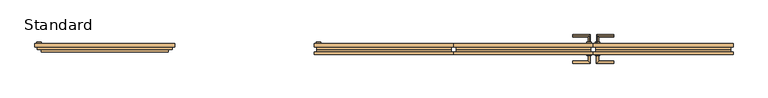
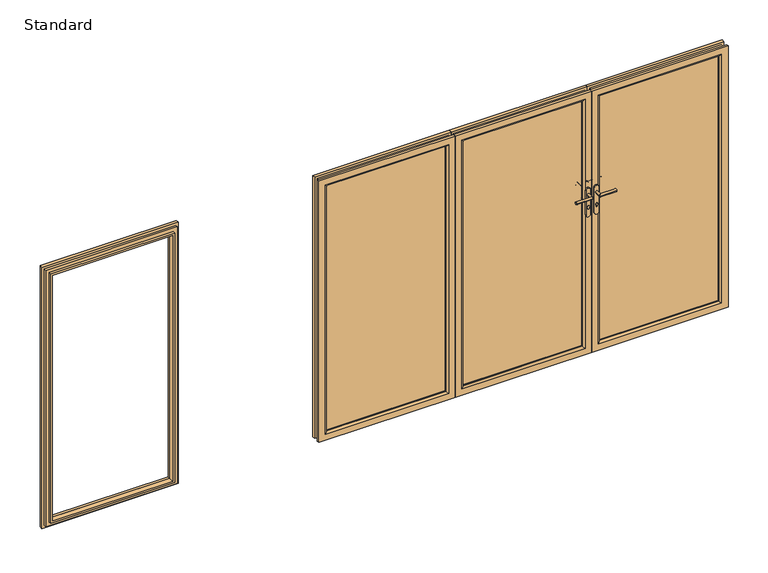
"""IFC4 building model written with IfcOpenShell, lengths in millimetres: door geometry, SMARTS_Visofold1000 : Standard."""

from ifc_helpers import new_model, si_unit, point, frame, frame_2d, origin, place, context, project, spatial, polyline, circle_curve, ellipse_curve, trimmed, segment, composite_curve, outline, extrude, faceted_brep, source, transform, mapped, element, save
from ifc_brep_helpers import plane_surface, cylinder_surface, advanced_brep


def standard_d1462c20(model_context):
    return source(origin(), model_context, "Body", "SolidModel", [
        advanced_brep(
        [(2003.3333333, 75.0, 1232.5996413), (2003.3333333, 75.0, 1215.5996413), (2003.3333333, 130.0, 1215.5996413), (2003.3333333, 130.0, 1232.5996413), (2118.3333333, 130.0, 1232.5996413), (2118.3333333, 130.0, 1215.5996413)],
        [
            (0, 1, circle_curve(frame((2003.3333333, 75.0, 1224.0996413), z_axis=(0.0, -1.0, 0.0), x_axis=(0.0, 0.0, -1.0)), 8.5)),
            (1, 0, circle_curve(frame((2003.3333333, 75.0, 1224.0996413), z_axis=(0.0, -1.0, 0.0), x_axis=(0.0, 0.0, -1.0)), 8.5)),
            (1, 2),
            (2, 3, ellipse_curve(frame((2003.3333333, 130.0, 1224.0996413), z_axis=(-0.7071067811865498, -0.7071067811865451, 0.0), x_axis=(0.707106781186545, -0.70710678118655, 0.0)), 12.0208153, 8.5)),
            (3, 0),
            (3, 2, ellipse_curve(frame((2003.3333333, 130.0, 1224.0996413), z_axis=(-0.7071067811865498, -0.7071067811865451, 0.0), x_axis=(0.707106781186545, -0.70710678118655, 0.0)), 12.0208153, 8.5)),
            (4, 5, circle_curve(frame((2118.3333333, 130.0, 1224.0996413), z_axis=(1.0, 0.0, 0.0), x_axis=(0.0, 0.0, -1.0)), 8.5)),
            (5, 4, circle_curve(frame((2118.3333333, 130.0, 1224.0996413), z_axis=(1.0, 0.0, 0.0), x_axis=(0.0, 0.0, -1.0)), 8.5)),
            (2, 5),
            (4, 3),
        ],
        [
            plane_surface(frame((2003.3333333, 75.0, 1224.0996413), z_axis=(0.0, -1.0, 0.0), x_axis=(0.0, 0.0, -1.0))),
            cylinder_surface(frame((2003.3333333, 75.0, 1224.0996413), z_axis=(0.0, -1.0, 0.0), x_axis=(0.0, 0.0, -1.0)), 8.5),
            plane_surface(frame((2118.3333333, 130.0, 1224.0996413), z_axis=(1.0, 0.0, 0.0), x_axis=(0.0, 0.0, -1.0))),
            cylinder_surface(frame((2003.3333333, 130.0, 1224.0996413), z_axis=(-1.0, 0.0, 0.0), x_axis=(0.0, 0.0, -1.0)), 8.5),
        ],
        [
            (0, [[1, 2]]),
            (1, [[-2, 3, 4, 5]]),
            (1, [[-1, -5, 6, -3]]),
            (2, [[7, 8]]),
            (3, [[-4, 9, -7, 10]]),
            (3, [[-6, -10, -8, -9]]),
        ],
    ),
        extrude(outline(composite_curve([segment(trimmed(circle_curve(frame_2d((1258.0996413, 2003.3333333)), 16.0), [point((1258.0996413, 2019.3333333))], [point((1258.0996413, 1987.3333333))], False, "CARTESIAN"), True, "CONTINUOUS"), segment(polyline([(1258.0996413, 1987.3333333), (1070.0996413, 1987.3333333)]), True, "CONTINUOUS"), segment(trimmed(circle_curve(frame_2d((1070.0996413, 2003.3333333)), 16.0), [point((1070.0996413, 1987.3333333))], [point((1070.0996413, 2019.3333333))], False, "CARTESIAN"), True, "CONTINUOUS"), segment(polyline([(1070.0996413, 2019.3333333), (1258.0996413, 2019.3333333)]), True, "CONTINUOUS")], self_intersect=False)), frame((0.0, 75.0, 0.0), z_axis=(0.0, 1.0, 0.0), x_axis=(0.0, 0.0, 1.0)), (0.0, 0.0, 1.0), 10.0),
        advanced_brep(
        [(2011.8333333, 0.0, 1224.0996413), (1994.8333333, 0.0, 1224.0996413), (2011.8333333, -46.5, 1224.0996413), (1994.8333333, -63.5, 1224.0996413), (2118.3333333, -46.5, 1224.0996413), (2118.3333333, -63.5, 1224.0996413)],
        [
            (0, 1, circle_curve(frame((2003.3333333, 0.0, 1224.0996413), z_axis=(0.0, 1.0, 0.0), x_axis=(-1.0, 0.0, 0.0)), 8.5)),
            (1, 0, circle_curve(frame((2003.3333333, 0.0, 1224.0996413), z_axis=(0.0, 1.0, 0.0), x_axis=(-1.0, 0.0, 0.0)), 8.5)),
            (0, 2),
            (2, 3, ellipse_curve(frame((2003.3333333, -55.0, 1224.0996413), z_axis=(-0.7071067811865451, 0.7071067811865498, 0.0), x_axis=(0.7071067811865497, 0.7071067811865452, 0.0)), 12.0208153, 8.5)),
            (3, 1),
            (3, 2, ellipse_curve(frame((2003.3333333, -55.0, 1224.0996413), z_axis=(-0.7071067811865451, 0.7071067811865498, 0.0), x_axis=(0.7071067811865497, 0.7071067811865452, 0.0)), 12.0208153, 8.5)),
            (4, 5, circle_curve(frame((2118.3333333, -55.0, 1224.0996413), z_axis=(1.0, 0.0, 0.0), x_axis=(0.0, -1.0, 0.0)), 8.5)),
            (5, 4, circle_curve(frame((2118.3333333, -55.0, 1224.0996413), z_axis=(1.0, 0.0, 0.0), x_axis=(0.0, -1.0, 0.0)), 8.5)),
            (2, 4),
            (5, 3),
        ],
        [
            plane_surface(frame((2003.3333333, 0.0, 1224.0996413), z_axis=(0.0, 1.0, 0.0), x_axis=(0.0, 0.0, -1.0))),
            cylinder_surface(frame((2003.3333333, 0.0, 1224.0996413), z_axis=(0.0, 1.0, 0.0), x_axis=(-1.0, 0.0, 0.0)), 8.5),
            plane_surface(frame((2118.3333333, -55.0, 1224.0996413), z_axis=(1.0, 0.0, 0.0), x_axis=(0.0, 0.0, -1.0))),
            cylinder_surface(frame((2003.3333333, -55.0, 1224.0996413), z_axis=(-1.0, 0.0, 0.0), x_axis=(0.0, -1.0, 0.0)), 8.5),
        ],
        [
            (0, [[1, 2]]),
            (1, [[-1, 3, 4, 5]]),
            (1, [[-2, -5, 6, -3]]),
            (2, [[7, 8]]),
            (3, [[-4, 9, -8, 10]]),
            (3, [[-6, -10, -7, -9]]),
        ],
    ),
        extrude(outline(composite_curve([segment(trimmed(circle_curve(frame_2d((1258.0996413, 2003.3333333)), 16.0), [point((1258.0996413, 2019.3333333))], [point((1258.0996413, 1987.3333333))], False, "CARTESIAN"), True, "CONTINUOUS"), segment(polyline([(1258.0996413, 1987.3333333), (1070.0996413, 1987.3333333)]), True, "CONTINUOUS"), segment(trimmed(circle_curve(frame_2d((1070.0996413, 2003.3333333)), 16.0), [point((1070.0996413, 1987.3333333))], [point((1070.0996413, 2019.3333333))], False, "CARTESIAN"), True, "CONTINUOUS"), segment(polyline([(1070.0996413, 2019.3333333), (1258.0996413, 2019.3333333)]), True, "CONTINUOUS")], self_intersect=False)), frame((0.0, -10.0, 0.0), z_axis=(0.0, 1.0, 0.0), x_axis=(0.0, 0.0, 1.0)), (0.0, 0.0, 1.0), 10.0),
        extrude(outline(composite_curve([segment(trimmed(circle_curve(frame_2d((1132.0996413, 2003.3905239)), 8.5), [point((1125.1769586, 2008.3227104))], [point((1125.27562, 1998.3227104))], False, "CARTESIAN"), True, "CONTINUOUS"), segment(polyline([(1125.27562, 1998.3227104), (1117.5996413, 1998.3227104)]), True, "CONTINUOUS"), segment(trimmed(circle_curve(frame_2d((1117.5996413, 2003.3227104)), 5.0), [point((1117.5996413, 1998.3227104))], [point((1117.5996413, 2008.3227104))], False, "CARTESIAN"), True, "CONTINUOUS"), segment(polyline([(1117.5996413, 2008.3227104), (1125.1769586, 2008.3227104)]), True, "CONTINUOUS")], self_intersect=False)), frame((0.0, 85.0, 0.0), z_axis=(0.0, 1.0, 0.0), x_axis=(0.0, 0.0, 1.0)), (0.0, 0.0, 1.0), 2.0),
        extrude(outline(composite_curve([segment(trimmed(circle_curve(frame_2d((1132.0996413, 2003.3905239)), 8.5), [point((1125.1769586, 2008.3227104))], [point((1125.27562, 1998.3227104))], False, "CARTESIAN"), True, "CONTINUOUS"), segment(polyline([(1125.27562, 1998.3227104), (1117.5996413, 1998.3227104)]), True, "CONTINUOUS"), segment(trimmed(circle_curve(frame_2d((1117.5996413, 2003.3227104)), 5.0), [point((1117.5996413, 1998.3227104))], [point((1117.5996413, 2008.3227104))], False, "CARTESIAN"), True, "CONTINUOUS"), segment(polyline([(1117.5996413, 2008.3227104), (1125.1769586, 2008.3227104)]), True, "CONTINUOUS")], self_intersect=False)), frame((0.0, -12.0, 0.0), z_axis=(0.0, 1.0, 0.0), x_axis=(0.0, 0.0, 1.0)), (0.0, 0.0, 1.0), 2.0),
        extrude(outline(polyline([(45.0, 2018.3333333), (45.0, 2915.0), (1955.0, 2915.0), (1955.0, 2018.3333333), (45.0, 2018.3333333)]), holes=[polyline([(1939.5, 2033.8333333), (1939.5, 2899.5), (60.5, 2899.5), (60.5, 2033.8333333), (1939.5, 2033.8333333)])]), frame((0.0, 17.4, 0.0), z_axis=(0.0, 1.0, 0.0), x_axis=(0.0, 0.0, 1.0)), (0.0, 0.0, 1.0), 35.0),
        faceted_brep([(1973.3333333, 74.4, 0.0), (1973.3333333, 52.4, 0.0), (1973.3333333, 52.4, 2000.0), (1973.3333333, 74.4, 2000.0), (2033.8333333, 52.4, 60.5), (2033.8333333, 74.4, 60.5), (2033.8333333, 74.4, 1939.5), (2033.8333333, 52.4, 1939.5), (2960.0, 74.4, 0.0), (2960.0, 52.4, 0.0), (2960.0, 52.4, 2000.0), (2960.0, 74.4, 2000.0), (2899.5, 74.4, 1939.5), (2899.5, 52.4, 1939.5), (2899.5, 74.4, 60.5), (2899.5, 52.4, 60.5), (1991.2024814, 34.8, 17.8691481), (2942.1308519, 34.8, 17.8691481), (2942.1308519, 34.8, 1982.1308519), (1991.2024814, 34.8, 1982.1308519), (2018.3333333, 34.8, 1955.0), (2915.0, 34.8, 1955.0), (2915.0, 34.8, 45.0), (2018.3333333, 34.8, 45.0), (1991.2024814, 52.4, 17.8691481), (1991.2024814, 52.4, 1982.1308519), (2018.3333333, 52.4, 45.0), (2018.3333333, 52.4, 1955.0), (2942.1308519, 52.4, 1982.1308519), (2915.0, 52.4, 1955.0), (2942.1308519, 52.4, 17.8691481), (2915.0, 52.4, 45.0)], [[[0, 1, 2, 3]], [[4, 5, 6, 7]], [[8, 9, 1, 0]], [[3, 2, 10, 11]], [[7, 6, 12, 13]], [[11, 10, 9, 8]], [[13, 12, 14, 15]], [[3, 11, 8, 0], [5, 14, 12, 6]], [[15, 14, 5, 4]], [[16, 17, 18, 19], [20, 21, 22, 23]], [[24, 16, 19, 25]], [[23, 26, 27, 20]], [[25, 19, 18, 28]], [[20, 27, 29, 21]], [[28, 18, 17, 30]], [[21, 29, 31, 22]], [[30, 17, 16, 24]], [[1, 9, 10, 2], [25, 28, 30, 24]], [[26, 31, 29, 27], [7, 13, 15, 4]], [[22, 31, 26, 23]]]),
        advanced_brep(
        [(2033.8333333, 13.3, 60.5), (2033.8333333, 17.4, 60.5), (2033.8333333, 17.4, 1939.5), (2033.8333333, 13.3, 1939.5), (1973.3333333, 17.4, 0.0), (1973.3333333, 0.0, 0.0), (1973.3333333, 0.0, 2000.0), (1973.3333333, 17.4, 2000.0), (2899.5, 17.4, 1939.5), (2899.5, 13.3, 1939.5), (2960.0, 0.0, 2000.0), (2960.0, 17.4, 2000.0), (2899.5, 17.4, 60.5), (2899.5, 13.3, 60.5), (2960.0, 0.0, 0.0), (2960.0, 17.4, 0.0), (2020.5333333, 0.0, 1952.8), (2912.8, 0.0, 1952.8), (2912.8, 0.0, 47.2), (2020.5333333, 0.0, 47.2), (1991.2024814, 34.8, 17.8691481), (1991.2024814, 17.4, 17.8691481), (1991.2024814, 17.4, 1982.1308519), (1991.2024814, 34.8, 1982.1308519), (2942.1308519, 17.4, 1982.1308519), (2942.1308519, 34.8, 1982.1308519), (2942.1308519, 17.4, 17.8691481), (2942.1308519, 34.8, 17.8691481), (2018.3333333, 17.4, 45.0), (2018.3333333, 34.8, 45.0), (2018.3333333, 34.8, 1955.0), (2018.3333333, 17.4, 1955.0), (2915.0, 34.8, 1955.0), (2915.0, 17.4, 1955.0), (2915.0, 34.8, 45.0), (2915.0, 17.4, 45.0)],
        [
            (0, 1),
            (1, 2),
            (2, 3),
            (3, 0),
            (4, 5),
            (5, 6),
            (6, 7),
            (7, 4),
            (2, 8),
            (8, 9),
            (9, 3),
            (6, 10),
            (10, 11),
            (11, 7),
            (8, 12),
            (12, 13),
            (13, 9),
            (10, 14),
            (14, 15),
            (15, 11),
            (12, 1),
            (0, 13),
            (5, 14),
            (16, 17),
            (17, 18),
            (18, 19),
            (19, 16),
            (4, 15),
            (19, 0, ellipse_curve(frame((2020.5333333, 13.3, 47.2), z_axis=(-0.70710678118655, 0.0, 0.707106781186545), x_axis=(-0.707106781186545, 0.0, -0.7071067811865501)), 18.8090404, 13.3)),
            (3, 16, ellipse_curve(frame((2020.5333333, 13.3, 1952.8), z_axis=(-0.7071067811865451, 0.0, -0.7071067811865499), x_axis=(0.70710678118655, 0.0, -0.7071067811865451)), 18.8090404, 13.3)),
            (9, 17, ellipse_curve(frame((2912.8, 13.3, 1952.8), z_axis=(-0.70710678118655, 0.0, 0.707106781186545), x_axis=(-0.707106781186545, 0.0, -0.7071067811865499)), 18.8090404, 13.3)),
            (13, 18, ellipse_curve(frame((2912.8, 13.3, 47.2), z_axis=(0.7071067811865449, 0.0, 0.70710678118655), x_axis=(-0.7071067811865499, 0.0, 0.707106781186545)), 18.8090404, 13.3)),
            (20, 21),
            (21, 22),
            (22, 23),
            (23, 20),
            (22, 24),
            (24, 25),
            (25, 23),
            (24, 26),
            (26, 27),
            (27, 25),
            (21, 26),
            (20, 27),
            (28, 29),
            (29, 30),
            (30, 31),
            (31, 28),
            (30, 32),
            (32, 33),
            (33, 31),
            (32, 34),
            (34, 35),
            (35, 33),
            (34, 29),
            (28, 35),
        ],
        [
            plane_surface(frame((2033.8333333, 17.4, 60.5), z_axis=(1.0, 0.0, 0.0), x_axis=(0.0, 0.0, 1.0))),
            plane_surface(frame((1973.3333333, 0.0, 0.0), z_axis=(-1.0, 0.0, 0.0), x_axis=(0.0, 0.0, 1.0))),
            plane_surface(frame((2033.8333333, 17.4, 1939.5), z_axis=(0.0, 0.0, -1.0), x_axis=(1.0, 0.0, 0.0))),
            plane_surface(frame((1973.3333333, 0.0, 2000.0), z_axis=(0.0, 0.0, 1.0), x_axis=(1.0, 0.0, 0.0))),
            plane_surface(frame((2899.5, 17.4, 1939.5), z_axis=(-1.0, 0.0, 0.0), x_axis=(0.0, 0.0, -1.0))),
            plane_surface(frame((2960.0, 0.0, 2000.0), z_axis=(1.0, 0.0, 0.0), x_axis=(0.0, 0.0, -1.0))),
            plane_surface(frame((2899.5, 17.4, 60.5), z_axis=(0.0, 0.0, 1.0), x_axis=(-1.0, 0.0, 0.0))),
            plane_surface(frame((2912.8, 0.0, 47.2), z_axis=(0.0, -1.0, 0.0), x_axis=(-1.0, 0.0, 0.0))),
            plane_surface(frame((2960.0, 0.0, 0.0), z_axis=(0.0, 0.0, -1.0), x_axis=(-1.0, 0.0, 0.0))),
            cylinder_surface(frame((2020.5333333, 13.3, 0.0), z_axis=(0.0, 0.0, -1.0), x_axis=(0.0, 1.0, 0.0)), 13.3),
            cylinder_surface(frame((1973.3333333, 13.3, 1952.8), z_axis=(-1.0, 0.0, 0.0), x_axis=(0.0, 1.0, 0.0)), 13.3),
            cylinder_surface(frame((2912.8, 13.3, 2000.0), z_axis=(0.0, 0.0, 1.0), x_axis=(0.0, 1.0, 0.0)), 13.3),
            cylinder_surface(frame((2960.0, 13.3, 47.2), z_axis=(1.0, 0.0, 0.0), x_axis=(0.0, 1.0, 0.0)), 13.3),
            plane_surface(frame((1991.2024814, 17.4, 17.8691481), z_axis=(-1.0, 0.0, 0.0), x_axis=(0.0, 0.0, 1.0))),
            plane_surface(frame((1991.2024814, 17.4, 1982.1308519), z_axis=(0.0, 0.0, 1.0), x_axis=(1.0, 0.0, 0.0))),
            plane_surface(frame((2942.1308519, 17.4, 1982.1308519), z_axis=(1.0, 0.0, 0.0), x_axis=(0.0, 0.0, -1.0))),
            plane_surface(frame((2960.0, 17.4, 0.0), z_axis=(0.0, 1.0, 0.0), x_axis=(-1.0, 0.0, 0.0))),
            plane_surface(frame((2942.1308519, 17.4, 17.8691481), z_axis=(0.0, 0.0, -1.0), x_axis=(-1.0, 0.0, 0.0))),
            plane_surface(frame((2018.3333333, 34.8, 45.0), z_axis=(1.0, 0.0, 0.0), x_axis=(0.0, 0.0, 1.0))),
            plane_surface(frame((2018.3333333, 34.8, 1955.0), z_axis=(0.0, 0.0, -1.0), x_axis=(1.0, 0.0, 0.0))),
            plane_surface(frame((2915.0, 34.8, 1955.0), z_axis=(-1.0, 0.0, 0.0), x_axis=(0.0, 0.0, -1.0))),
            plane_surface(frame((2915.0, 34.8, 45.0), z_axis=(0.0, 0.0, 1.0), x_axis=(-1.0, 0.0, 0.0))),
            plane_surface(frame((2915.0, 17.4, 45.0), z_axis=(0.0, 1.0, 0.0), x_axis=(-1.0, 0.0, 0.0))),
            plane_surface(frame((2942.1308519, 34.8, 17.8691481), z_axis=(0.0, 1.0, 0.0), x_axis=(-1.0, 0.0, 0.0))),
        ],
        [
            (0, [[1, 2, 3, 4]]),
            (1, [[5, 6, 7, 8]]),
            (2, [[-3, 9, 10, 11]]),
            (3, [[-7, 12, 13, 14]]),
            (4, [[-10, 15, 16, 17]]),
            (5, [[-13, 18, 19, 20]]),
            (6, [[-16, 21, -1, 22]]),
            (7, [[23, -18, -12, -6], [24, 25, 26, 27]]),
            (8, [[-19, -23, -5, 28]]),
            (9, [[29, -4, 30, -27]]),
            (10, [[-30, -11, 31, -24]]),
            (11, [[-31, -17, 32, -25]]),
            (12, [[-32, -22, -29, -26]]),
            (13, [[33, 34, 35, 36]]),
            (14, [[-35, 37, 38, 39]]),
            (15, [[-38, 40, 41, 42]]),
            (16, [[-14, -20, -28, -8], [43, -40, -37, -34]]),
            (17, [[-41, -43, -33, 44]]),
            (18, [[45, 46, 47, 48]]),
            (19, [[-47, 49, 50, 51]]),
            (20, [[-50, 52, 53, 54]]),
            (21, [[-53, 55, -45, 56]]),
            (22, [[-51, -54, -56, -48], [-21, -15, -9, -2]]),
            (23, [[-39, -42, -44, -36], [-55, -52, -49, -46]]),
        ],
    ),
        extrude(outline(polyline([(2033.8333333, 50.1484783), (2899.5, 50.1484783), (2899.5, 21.4), (2033.8333333, 21.4), (2033.8333333, 50.1484783)])), frame((0.0, 0.0, 60.5), z_axis=(0.0, 0.0, 1.0), x_axis=(1.0, 0.0, 0.0)), (0.0, 0.0, 1.0), 1879.0),
        advanced_brep(
        [(1943.3333333, 75.0, 1232.5996413), (1943.3333333, 75.0, 1215.5996413), (1943.3333333, 130.0, 1232.5996413), (1943.3333333, 130.0, 1215.5996413), (1828.3333333, 130.0, 1232.5996413), (1828.3333333, 130.0, 1215.5996413)],
        [
            (0, 1, circle_curve(frame((1943.3333333, 75.0, 1224.0996413), z_axis=(0.0, -1.0, 0.0), x_axis=(0.0, 0.0, -1.0)), 8.5)),
            (1, 0, circle_curve(frame((1943.3333333, 75.0, 1224.0996413), z_axis=(0.0, -1.0, 0.0), x_axis=(0.0, 0.0, -1.0)), 8.5)),
            (0, 2),
            (2, 3, ellipse_curve(frame((1943.3333333, 130.0, 1224.0996413), z_axis=(0.7071067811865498, -0.7071067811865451, 0.0), x_axis=(-0.707106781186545, -0.70710678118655, 0.0)), 12.0208153, 8.5)),
            (3, 1),
            (3, 2, ellipse_curve(frame((1943.3333333, 130.0, 1224.0996413), z_axis=(0.7071067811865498, -0.7071067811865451, 0.0), x_axis=(-0.707106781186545, -0.70710678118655, 0.0)), 12.0208153, 8.5)),
            (4, 5, circle_curve(frame((1828.3333333, 130.0, 1224.0996413), z_axis=(-1.0, 0.0, 0.0), x_axis=(0.0, 0.0, -1.0)), 8.5)),
            (5, 4, circle_curve(frame((1828.3333333, 130.0, 1224.0996413), z_axis=(-1.0, 0.0, 0.0), x_axis=(0.0, 0.0, -1.0)), 8.5)),
            (2, 4),
            (5, 3),
        ],
        [
            plane_surface(frame((1943.3333333, 75.0, 1224.0996413), z_axis=(0.0, -1.0, 0.0), x_axis=(0.0, 0.0, -1.0))),
            cylinder_surface(frame((1943.3333333, 75.0, 1224.0996413), z_axis=(0.0, -1.0, 0.0), x_axis=(0.0, 0.0, -1.0)), 8.5),
            plane_surface(frame((1828.3333333, 130.0, 1224.0996413), z_axis=(-1.0, 0.0, 0.0), x_axis=(0.0, 0.0, -1.0))),
            cylinder_surface(frame((1943.3333333, 130.0, 1224.0996413), z_axis=(1.0, 0.0, 0.0), x_axis=(0.0, 0.0, -1.0)), 8.5),
        ],
        [
            (0, [[1, 2]]),
            (1, [[3, 4, 5, -1]]),
            (1, [[-5, 6, -3, -2]]),
            (2, [[7, 8]]),
            (3, [[9, -8, 10, -4]]),
            (3, [[-10, -7, -9, -6]]),
        ],
    ),
        extrude(outline(composite_curve([segment(polyline([(1258.0996413, 1927.3333333), (1070.0996413, 1927.3333333)]), True, "CONTINUOUS"), segment(trimmed(circle_curve(frame_2d((1070.0996413, 1943.3333333)), 16.0), [point((1070.0996413, 1927.3333333))], [point((1070.0996413, 1959.3333333))], False, "CARTESIAN"), True, "CONTINUOUS"), segment(polyline([(1070.0996413, 1959.3333333), (1258.0996413, 1959.3333333)]), True, "CONTINUOUS"), segment(trimmed(circle_curve(frame_2d((1258.0996413, 1943.3333333)), 16.0), [point((1258.0996413, 1959.3333333))], [point((1258.0996413, 1927.3333333))], False, "CARTESIAN"), True, "CONTINUOUS")], self_intersect=False)), frame((0.0, 75.0, 0.0), z_axis=(0.0, 1.0, 0.0), x_axis=(0.0, 0.0, 1.0)), (0.0, 0.0, 1.0), 10.0),
        advanced_brep(
        [(1934.8333333, 0.0, 1224.0996413), (1951.8333333, 0.0, 1224.0996413), (1951.8333333, -63.5, 1224.0996413), (1934.8333333, -46.5, 1224.0996413), (1828.3333333, -46.5, 1224.0996413), (1828.3333333, -63.5, 1224.0996413)],
        [
            (0, 1, circle_curve(frame((1943.3333333, 0.0, 1224.0996413), z_axis=(0.0, 1.0, 0.0), x_axis=(1.0, 0.0, 0.0)), 8.5)),
            (1, 0, circle_curve(frame((1943.3333333, 0.0, 1224.0996413), z_axis=(0.0, 1.0, 0.0), x_axis=(1.0, 0.0, 0.0)), 8.5)),
            (1, 2),
            (2, 3, ellipse_curve(frame((1943.3333333, -55.0, 1224.0996413), z_axis=(0.7071067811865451, 0.7071067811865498, 0.0), x_axis=(-0.7071067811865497, 0.7071067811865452, 0.0)), 12.0208153, 8.5)),
            (3, 0),
            (3, 2, ellipse_curve(frame((1943.3333333, -55.0, 1224.0996413), z_axis=(0.7071067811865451, 0.7071067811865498, 0.0), x_axis=(-0.7071067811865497, 0.7071067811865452, 0.0)), 12.0208153, 8.5)),
            (4, 5, circle_curve(frame((1828.3333333, -55.0, 1224.0996413), z_axis=(-1.0, 0.0, 0.0), x_axis=(0.0, -1.0, 0.0)), 8.5)),
            (5, 4, circle_curve(frame((1828.3333333, -55.0, 1224.0996413), z_axis=(-1.0, 0.0, 0.0), x_axis=(0.0, -1.0, 0.0)), 8.5)),
            (2, 5),
            (4, 3),
        ],
        [
            plane_surface(frame((1943.3333333, 0.0, 1224.0996413), z_axis=(0.0, 1.0, 0.0), x_axis=(0.0, 0.0, -1.0))),
            cylinder_surface(frame((1943.3333333, 0.0, 1224.0996413), z_axis=(0.0, 1.0, 0.0), x_axis=(1.0, 0.0, 0.0)), 8.5),
            plane_surface(frame((1828.3333333, -55.0, 1224.0996413), z_axis=(-1.0, 0.0, 0.0), x_axis=(0.0, 0.0, -1.0))),
            cylinder_surface(frame((1943.3333333, -55.0, 1224.0996413), z_axis=(1.0, 0.0, 0.0), x_axis=(0.0, -1.0, 0.0)), 8.5),
        ],
        [
            (0, [[1, 2]]),
            (1, [[3, 4, 5, -2]]),
            (1, [[-5, 6, -3, -1]]),
            (2, [[7, 8]]),
            (3, [[9, -7, 10, -4]]),
            (3, [[-10, -8, -9, -6]]),
        ],
    ),
        extrude(outline(composite_curve([segment(polyline([(1258.0996413, 1927.3333333), (1070.0996413, 1927.3333333)]), True, "CONTINUOUS"), segment(trimmed(circle_curve(frame_2d((1070.0996413, 1943.3333333)), 16.0), [point((1070.0996413, 1927.3333333))], [point((1070.0996413, 1959.3333333))], False, "CARTESIAN"), True, "CONTINUOUS"), segment(polyline([(1070.0996413, 1959.3333333), (1258.0996413, 1959.3333333)]), True, "CONTINUOUS"), segment(trimmed(circle_curve(frame_2d((1258.0996413, 1943.3333333)), 16.0), [point((1258.0996413, 1959.3333333))], [point((1258.0996413, 1927.3333333))], False, "CARTESIAN"), True, "CONTINUOUS")], self_intersect=False)), frame((0.0, -10.0, 0.0), z_axis=(0.0, 1.0, 0.0), x_axis=(0.0, 0.0, 1.0)), (0.0, 0.0, 1.0), 10.0),
        extrude(outline(composite_curve([segment(polyline([(1125.1769586, 1938.3439563), (1117.5996413, 1938.3439563)]), True, "CONTINUOUS"), segment(trimmed(circle_curve(frame_2d((1117.5996413, 1943.3439563)), 5.0), [point((1117.5996413, 1938.3439563))], [point((1117.5996413, 1948.3439563))], False, "CARTESIAN"), True, "CONTINUOUS"), segment(polyline([(1117.5996413, 1948.3439563), (1125.27562, 1948.3439563)]), True, "CONTINUOUS"), segment(trimmed(circle_curve(frame_2d((1132.0996413, 1943.2761428)), 8.5), [point((1125.27562, 1948.3439563))], [point((1125.1769586, 1938.3439563))], False, "CARTESIAN"), True, "CONTINUOUS")], self_intersect=False)), frame((0.0, 85.0, 0.0), z_axis=(0.0, 1.0, 0.0), x_axis=(0.0, 0.0, 1.0)), (0.0, 0.0, 1.0), 2.0),
        extrude(outline(composite_curve([segment(polyline([(1125.1769586, 1938.3439563), (1117.5996413, 1938.3439563)]), True, "CONTINUOUS"), segment(trimmed(circle_curve(frame_2d((1117.5996413, 1943.3439563)), 5.0), [point((1117.5996413, 1938.3439563))], [point((1117.5996413, 1948.3439563))], False, "CARTESIAN"), True, "CONTINUOUS"), segment(polyline([(1117.5996413, 1948.3439563), (1125.27562, 1948.3439563)]), True, "CONTINUOUS"), segment(trimmed(circle_curve(frame_2d((1132.0996413, 1943.2761428)), 8.5), [point((1125.27562, 1948.3439563))], [point((1125.1769586, 1938.3439563))], False, "CARTESIAN"), True, "CONTINUOUS")], self_intersect=False)), frame((0.0, -12.0, 0.0), z_axis=(0.0, 1.0, 0.0), x_axis=(0.0, 0.0, 1.0)), (0.0, 0.0, 1.0), 2.0),
        extrude(outline(polyline([(45.0, 1928.3333333), (1955.0, 1928.3333333), (1955.0, 1031.6666667), (45.0, 1031.6666667), (45.0, 1928.3333333)]), holes=[polyline([(1939.5, 1912.8333333), (60.5, 1912.8333333), (60.5, 1047.1666667), (1939.5, 1047.1666667), (1939.5, 1912.8333333)])]), frame((0.0, 17.4, 0.0), z_axis=(0.0, 1.0, 0.0), x_axis=(0.0, 0.0, 1.0)), (0.0, 0.0, 1.0), 35.0),
        faceted_brep([(1973.3333333, 74.4, 0.0), (1973.3333333, 74.4, 2000.0), (1973.3333333, 52.4, 2000.0), (1973.3333333, 52.4, 0.0), (1912.8333333, 52.4, 60.5), (1912.8333333, 52.4, 1939.5), (1912.8333333, 74.4, 1939.5), (1912.8333333, 74.4, 60.5), (986.6666667, 74.4, 2000.0), (986.6666667, 52.4, 2000.0), (1047.1666667, 52.4, 1939.5), (1047.1666667, 74.4, 1939.5), (986.6666667, 74.4, 0.0), (986.6666667, 52.4, 0.0), (1047.1666667, 52.4, 60.5), (1047.1666667, 74.4, 60.5), (1955.4641853, 34.8, 17.8691481), (1955.4641853, 34.8, 1982.1308519), (1004.5358147, 34.8, 1982.1308519), (1004.5358147, 34.8, 17.8691481), (1928.3333333, 34.8, 1955.0), (1928.3333333, 34.8, 45.0), (1031.6666667, 34.8, 45.0), (1031.6666667, 34.8, 1955.0), (1955.4641853, 52.4, 17.8691481), (1955.4641853, 52.4, 1982.1308519), (1928.3333333, 52.4, 1955.0), (1928.3333333, 52.4, 45.0), (1004.5358147, 52.4, 1982.1308519), (1031.6666667, 52.4, 1955.0), (1004.5358147, 52.4, 17.8691481), (1031.6666667, 52.4, 45.0)], [[[0, 1, 2, 3]], [[4, 5, 6, 7]], [[1, 8, 9, 2]], [[5, 10, 11, 6]], [[8, 12, 13, 9]], [[10, 14, 15, 11]], [[12, 0, 3, 13]], [[1, 0, 12, 8], [7, 6, 11, 15]], [[14, 4, 7, 15]], [[16, 17, 18, 19], [20, 21, 22, 23]], [[24, 25, 17, 16]], [[21, 20, 26, 27]], [[25, 28, 18, 17]], [[20, 23, 29, 26]], [[28, 30, 19, 18]], [[23, 22, 31, 29]], [[30, 24, 16, 19]], [[3, 2, 9, 13], [25, 24, 30, 28]], [[27, 26, 29, 31], [5, 4, 14, 10]], [[22, 21, 27, 31]]]),
        advanced_brep(
        [(1912.8333333, 13.3, 60.5), (1912.8333333, 13.3, 1939.5), (1912.8333333, 17.4, 1939.5), (1912.8333333, 17.4, 60.5), (1973.3333333, 17.4, 0.0), (1973.3333333, 17.4, 2000.0), (1973.3333333, 0.0, 2000.0), (1973.3333333, 0.0, 0.0), (1047.1666667, 13.3, 1939.5), (1047.1666667, 17.4, 1939.5), (986.6666667, 17.4, 2000.0), (986.6666667, 0.0, 2000.0), (1047.1666667, 13.3, 60.5), (1047.1666667, 17.4, 60.5), (986.6666667, 17.4, 0.0), (986.6666667, 0.0, 0.0), (1926.1333333, 0.0, 1952.8), (1926.1333333, 0.0, 47.2), (1033.8666667, 0.0, 47.2), (1033.8666667, 0.0, 1952.8), (1955.4641853, 34.8, 17.8691481), (1955.4641853, 34.8, 1982.1308519), (1955.4641853, 17.4, 1982.1308519), (1955.4641853, 17.4, 17.8691481), (1004.5358147, 34.8, 1982.1308519), (1004.5358147, 17.4, 1982.1308519), (1004.5358147, 34.8, 17.8691481), (1004.5358147, 17.4, 17.8691481), (1928.3333333, 17.4, 45.0), (1928.3333333, 17.4, 1955.0), (1928.3333333, 34.8, 1955.0), (1928.3333333, 34.8, 45.0), (1031.6666667, 17.4, 1955.0), (1031.6666667, 34.8, 1955.0), (1031.6666667, 17.4, 45.0), (1031.6666667, 34.8, 45.0)],
        [
            (0, 1),
            (1, 2),
            (2, 3),
            (3, 0),
            (4, 5),
            (5, 6),
            (6, 7),
            (7, 4),
            (1, 8),
            (8, 9),
            (9, 2),
            (5, 10),
            (10, 11),
            (11, 6),
            (8, 12),
            (12, 13),
            (13, 9),
            (10, 14),
            (14, 15),
            (15, 11),
            (12, 0),
            (3, 13),
            (15, 7),
            (16, 17),
            (17, 18),
            (18, 19),
            (19, 16),
            (14, 4),
            (16, 1, ellipse_curve(frame((1926.1333333, 13.3, 1952.8), z_axis=(0.7071067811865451, 0.0, -0.7071067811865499), x_axis=(-0.70710678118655, 0.0, -0.7071067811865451)), 18.8090404, 13.3)),
            (0, 17, ellipse_curve(frame((1926.1333333, 13.3, 47.2), z_axis=(0.70710678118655, 0.0, 0.707106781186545), x_axis=(0.707106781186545, 0.0, -0.7071067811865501)), 18.8090404, 13.3)),
            (19, 8, ellipse_curve(frame((1033.8666667, 13.3, 1952.8), z_axis=(0.70710678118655, 0.0, 0.707106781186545), x_axis=(0.707106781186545, 0.0, -0.7071067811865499)), 18.8090404, 13.3)),
            (18, 12, ellipse_curve(frame((1033.8666667, 13.3, 47.2), z_axis=(-0.7071067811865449, 0.0, 0.70710678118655), x_axis=(0.7071067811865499, 0.0, 0.707106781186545)), 18.8090404, 13.3)),
            (20, 21),
            (21, 22),
            (22, 23),
            (23, 20),
            (21, 24),
            (24, 25),
            (25, 22),
            (24, 26),
            (26, 27),
            (27, 25),
            (27, 23),
            (26, 20),
            (28, 29),
            (29, 30),
            (30, 31),
            (31, 28),
            (29, 32),
            (32, 33),
            (33, 30),
            (32, 34),
            (34, 35),
            (35, 33),
            (34, 28),
            (31, 35),
        ],
        [
            plane_surface(frame((1912.8333333, 17.4, 60.5), z_axis=(-1.0, 0.0, 0.0), x_axis=(0.0, 0.0, 1.0))),
            plane_surface(frame((1973.3333333, 0.0, 0.0), z_axis=(1.0, 0.0, 0.0), x_axis=(0.0, 0.0, 1.0))),
            plane_surface(frame((1912.8333333, 17.4, 1939.5), z_axis=(0.0, 0.0, -1.0), x_axis=(-1.0, 0.0, 0.0))),
            plane_surface(frame((1973.3333333, 0.0, 2000.0), z_axis=(0.0, 0.0, 1.0), x_axis=(-1.0, 0.0, 0.0))),
            plane_surface(frame((1047.1666667, 17.4, 1939.5), z_axis=(1.0, 0.0, 0.0), x_axis=(0.0, 0.0, -1.0))),
            plane_surface(frame((986.6666667, 0.0, 2000.0), z_axis=(-1.0, 0.0, 0.0), x_axis=(0.0, 0.0, -1.0))),
            plane_surface(frame((1047.1666667, 17.4, 60.5), z_axis=(0.0, 0.0, 1.0), x_axis=(1.0, 0.0, 0.0))),
            plane_surface(frame((1033.8666667, 0.0, 47.2), z_axis=(0.0, -1.0, 0.0), x_axis=(1.0, 0.0, 0.0))),
            plane_surface(frame((986.6666667, 0.0, 0.0), z_axis=(0.0, 0.0, -1.0), x_axis=(1.0, 0.0, 0.0))),
            cylinder_surface(frame((1926.1333333, 13.3, 0.0), z_axis=(0.0, 0.0, -1.0), x_axis=(0.0, 1.0, 0.0)), 13.3),
            cylinder_surface(frame((1973.3333333, 13.3, 1952.8), z_axis=(1.0, 0.0, 0.0), x_axis=(0.0, 1.0, 0.0)), 13.3),
            cylinder_surface(frame((1033.8666667, 13.3, 2000.0), z_axis=(0.0, 0.0, 1.0), x_axis=(0.0, 1.0, 0.0)), 13.3),
            cylinder_surface(frame((986.6666667, 13.3, 47.2), z_axis=(-1.0, 0.0, 0.0), x_axis=(0.0, 1.0, 0.0)), 13.3),
            plane_surface(frame((1955.4641853, 17.4, 17.8691481), z_axis=(1.0, 0.0, 0.0), x_axis=(0.0, 0.0, 1.0))),
            plane_surface(frame((1955.4641853, 17.4, 1982.1308519), z_axis=(0.0, 0.0, 1.0), x_axis=(-1.0, 0.0, 0.0))),
            plane_surface(frame((1004.5358147, 17.4, 1982.1308519), z_axis=(-1.0, 0.0, 0.0), x_axis=(0.0, 0.0, -1.0))),
            plane_surface(frame((986.6666667, 17.4, 0.0), z_axis=(0.0, 1.0, 0.0), x_axis=(1.0, 0.0, 0.0))),
            plane_surface(frame((1004.5358147, 17.4, 17.8691481), z_axis=(0.0, 0.0, -1.0), x_axis=(1.0, 0.0, 0.0))),
            plane_surface(frame((1928.3333333, 34.8, 45.0), z_axis=(-1.0, 0.0, 0.0), x_axis=(0.0, 0.0, 1.0))),
            plane_surface(frame((1928.3333333, 34.8, 1955.0), z_axis=(0.0, 0.0, -1.0), x_axis=(-1.0, 0.0, 0.0))),
            plane_surface(frame((1031.6666667, 34.8, 1955.0), z_axis=(1.0, 0.0, 0.0), x_axis=(0.0, 0.0, -1.0))),
            plane_surface(frame((1031.6666667, 34.8, 45.0), z_axis=(0.0, 0.0, 1.0), x_axis=(1.0, 0.0, 0.0))),
            plane_surface(frame((1031.6666667, 17.4, 45.0), z_axis=(0.0, 1.0, 0.0), x_axis=(1.0, 0.0, 0.0))),
            plane_surface(frame((1004.5358147, 34.8, 17.8691481), z_axis=(0.0, 1.0, 0.0), x_axis=(1.0, 0.0, 0.0))),
        ],
        [
            (0, [[1, 2, 3, 4]]),
            (1, [[5, 6, 7, 8]]),
            (2, [[9, 10, 11, -2]]),
            (3, [[12, 13, 14, -6]]),
            (4, [[15, 16, 17, -10]]),
            (5, [[18, 19, 20, -13]]),
            (6, [[21, -4, 22, -16]]),
            (7, [[-7, -14, -20, 23], [24, 25, 26, 27]]),
            (8, [[28, -8, -23, -19]]),
            (9, [[-24, 29, -1, 30]]),
            (10, [[-27, 31, -9, -29]]),
            (11, [[-26, 32, -15, -31]]),
            (12, [[-25, -30, -21, -32]]),
            (13, [[33, 34, 35, 36]]),
            (14, [[37, 38, 39, -34]]),
            (15, [[40, 41, 42, -38]]),
            (16, [[-5, -28, -18, -12], [-35, -39, -42, 43]]),
            (17, [[44, -36, -43, -41]]),
            (18, [[45, 46, 47, 48]]),
            (19, [[49, 50, 51, -46]]),
            (20, [[52, 53, 54, -50]]),
            (21, [[55, -48, 56, -53]]),
            (22, [[-45, -55, -52, -49], [-3, -11, -17, -22]]),
            (23, [[-33, -44, -40, -37], [-47, -51, -54, -56]]),
        ],
    ),
        extrude(outline(polyline([(1912.8333333, 50.1484783), (1912.8333333, 21.4), (1047.1666667, 21.4), (1047.1666667, 50.1484783), (1912.8333333, 50.1484783)])), frame((0.0, 0.0, 60.5), z_axis=(0.0, 0.0, 1.0), x_axis=(1.0, 0.0, 0.0)), (0.0, 0.0, 1.0), 1879.0),
        extrude(outline(composite_curve([segment(trimmed(circle_curve(frame_2d((1228.0996413, 30.0)), 16.0), [point((1228.0996413, 46.0))], [point((1228.0996413, 14.0))], False, "CARTESIAN"), True, "CONTINUOUS"), segment(polyline([(1228.0996413, 14.0), (1040.0996413, 14.0)]), True, "CONTINUOUS"), segment(trimmed(circle_curve(frame_2d((1040.0996413, 30.0)), 16.0), [point((1040.0996413, 14.0))], [point((1040.0996413, 46.0))], False, "CARTESIAN"), True, "CONTINUOUS"), segment(polyline([(1040.0996413, 46.0), (1228.0996413, 46.0)]), True, "CONTINUOUS")], self_intersect=False)), frame((0.0, 75.0, 0.0), z_axis=(0.0, 1.0, 0.0), x_axis=(0.0, 0.0, 1.0)), (0.0, 0.0, 1.0), 10.0),
        extrude(outline(polyline([(45.0, 45.0), (45.0, 941.6666667), (1955.0, 941.6666667), (1955.0, 45.0), (45.0, 45.0)]), holes=[polyline([(1939.5, 60.5), (1939.5, 926.1666667), (60.5, 926.1666667), (60.5, 60.5), (1939.5, 60.5)])]), frame((0.0, 17.4, 0.0), z_axis=(0.0, 1.0, 0.0), x_axis=(0.0, 0.0, 1.0)), (0.0, 0.0, 1.0), 35.0),
        faceted_brep([(0.0, 74.4, 0.0), (0.0, 52.4, 0.0), (0.0, 52.4, 2000.0), (0.0, 74.4, 2000.0), (60.5, 52.4, 60.5), (60.5, 74.4, 60.5), (60.5, 74.4, 1939.5), (60.5, 52.4, 1939.5), (986.6666667, 52.4, 2000.0), (986.6666667, 74.4, 2000.0), (926.1666667, 74.4, 1939.5), (926.1666667, 52.4, 1939.5), (986.6666667, 52.4, 0.0), (986.6666667, 74.4, 0.0), (926.1666667, 74.4, 60.5), (926.1666667, 52.4, 60.5), (17.8691481, 34.8, 17.8691481), (968.7975186, 34.8, 17.8691481), (968.7975186, 34.8, 1982.1308519), (17.8691481, 34.8, 1982.1308519), (45.0, 34.8, 1955.0), (941.6666667, 34.8, 1955.0), (941.6666667, 34.8, 45.0), (45.0, 34.8, 45.0), (17.8691481, 52.4, 17.8691481), (17.8691481, 52.4, 1982.1308519), (45.0, 52.4, 45.0), (45.0, 52.4, 1955.0), (968.7975186, 52.4, 1982.1308519), (941.6666667, 52.4, 1955.0), (968.7975186, 52.4, 17.8691481), (941.6666667, 52.4, 45.0)], [[[0, 1, 2, 3]], [[4, 5, 6, 7]], [[3, 2, 8, 9]], [[7, 6, 10, 11]], [[9, 8, 12, 13]], [[11, 10, 14, 15]], [[13, 12, 1, 0]], [[3, 9, 13, 0], [5, 14, 10, 6]], [[15, 14, 5, 4]], [[16, 17, 18, 19], [20, 21, 22, 23]], [[24, 16, 19, 25]], [[23, 26, 27, 20]], [[25, 19, 18, 28]], [[20, 27, 29, 21]], [[28, 18, 17, 30]], [[21, 29, 31, 22]], [[30, 17, 16, 24]], [[1, 12, 8, 2], [25, 28, 30, 24]], [[26, 31, 29, 27], [7, 11, 15, 4]], [[22, 31, 26, 23]]]),
        advanced_brep(
        [(60.5, 13.3, 60.5), (60.5, 17.4, 60.5), (60.5, 17.4, 1939.5), (60.5, 13.3, 1939.5), (0.0, 17.4, 0.0), (0.0, 0.0, 0.0), (0.0, 0.0, 2000.0), (0.0, 17.4, 2000.0), (926.1666667, 17.4, 1939.5), (926.1666667, 13.3, 1939.5), (986.6666667, 0.0, 2000.0), (986.6666667, 17.4, 2000.0), (926.1666667, 17.4, 60.5), (926.1666667, 13.3, 60.5), (986.6666667, 0.0, 0.0), (986.6666667, 17.4, 0.0), (47.2, 0.0, 1952.8), (939.4666667, 0.0, 1952.8), (939.4666667, 0.0, 47.2), (47.2, 0.0, 47.2), (17.8691481, 34.8, 17.8691481), (17.8691481, 17.4, 17.8691481), (17.8691481, 17.4, 1982.1308519), (17.8691481, 34.8, 1982.1308519), (968.7975186, 17.4, 1982.1308519), (968.7975186, 34.8, 1982.1308519), (968.7975186, 17.4, 17.8691481), (968.7975186, 34.8, 17.8691481), (45.0, 17.4, 45.0), (45.0, 34.8, 45.0), (45.0, 34.8, 1955.0), (45.0, 17.4, 1955.0), (941.6666667, 34.8, 1955.0), (941.6666667, 17.4, 1955.0), (941.6666667, 34.8, 45.0), (941.6666667, 17.4, 45.0)],
        [
            (0, 1),
            (1, 2),
            (2, 3),
            (3, 0),
            (4, 5),
            (5, 6),
            (6, 7),
            (7, 4),
            (2, 8),
            (8, 9),
            (9, 3),
            (6, 10),
            (10, 11),
            (11, 7),
            (8, 12),
            (12, 13),
            (13, 9),
            (10, 14),
            (14, 15),
            (15, 11),
            (12, 1),
            (0, 13),
            (5, 14),
            (16, 17),
            (17, 18),
            (18, 19),
            (19, 16),
            (4, 15),
            (19, 0, ellipse_curve(frame((47.2, 13.3, 47.2), z_axis=(-0.70710678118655, 0.0, 0.707106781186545), x_axis=(-0.707106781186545, 0.0, -0.7071067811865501)), 18.8090404, 13.3)),
            (3, 16, ellipse_curve(frame((47.2, 13.3, 1952.8), z_axis=(-0.7071067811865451, 0.0, -0.7071067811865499), x_axis=(0.70710678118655, 0.0, -0.7071067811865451)), 18.8090404, 13.3)),
            (9, 17, ellipse_curve(frame((939.4666667, 13.3, 1952.8), z_axis=(-0.70710678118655, 0.0, 0.707106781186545), x_axis=(-0.707106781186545, 0.0, -0.7071067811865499)), 18.8090404, 13.3)),
            (13, 18, ellipse_curve(frame((939.4666667, 13.3, 47.2), z_axis=(0.7071067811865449, 0.0, 0.70710678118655), x_axis=(-0.7071067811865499, 0.0, 0.707106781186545)), 18.8090404, 13.3)),
            (20, 21),
            (21, 22),
            (22, 23),
            (23, 20),
            (22, 24),
            (24, 25),
            (25, 23),
            (24, 26),
            (26, 27),
            (27, 25),
            (21, 26),
            (20, 27),
            (28, 29),
            (29, 30),
            (30, 31),
            (31, 28),
            (30, 32),
            (32, 33),
            (33, 31),
            (32, 34),
            (34, 35),
            (35, 33),
            (34, 29),
            (28, 35),
        ],
        [
            plane_surface(frame((60.5, 17.4, 60.5), z_axis=(1.0, 0.0, 0.0), x_axis=(0.0, 0.0, 1.0))),
            plane_surface(frame((0.0, 0.0, 0.0), z_axis=(-1.0, 0.0, 0.0), x_axis=(0.0, 0.0, 1.0))),
            plane_surface(frame((60.5, 17.4, 1939.5), z_axis=(0.0, 0.0, -1.0), x_axis=(1.0, 0.0, 0.0))),
            plane_surface(frame((0.0, 0.0, 2000.0), z_axis=(0.0, 0.0, 1.0), x_axis=(1.0, 0.0, 0.0))),
            plane_surface(frame((926.1666667, 17.4, 1939.5), z_axis=(-1.0, 0.0, 0.0), x_axis=(0.0, 0.0, -1.0))),
            plane_surface(frame((986.6666667, 0.0, 2000.0), z_axis=(1.0, 0.0, 0.0), x_axis=(0.0, 0.0, -1.0))),
            plane_surface(frame((926.1666667, 17.4, 60.5), z_axis=(0.0, 0.0, 1.0), x_axis=(-1.0, 0.0, 0.0))),
            plane_surface(frame((939.4666667, 0.0, 47.2), z_axis=(0.0, -1.0, 0.0), x_axis=(-1.0, 0.0, 0.0))),
            plane_surface(frame((986.6666667, 0.0, 0.0), z_axis=(0.0, 0.0, -1.0), x_axis=(-1.0, 0.0, 0.0))),
            cylinder_surface(frame((47.2, 13.3, 0.0), z_axis=(0.0, 0.0, -1.0), x_axis=(0.0, 1.0, 0.0)), 13.3),
            cylinder_surface(frame((0.0, 13.3, 1952.8), z_axis=(-1.0, 0.0, 0.0), x_axis=(0.0, 1.0, 0.0)), 13.3),
            cylinder_surface(frame((939.4666667, 13.3, 2000.0), z_axis=(0.0, 0.0, 1.0), x_axis=(0.0, 1.0, 0.0)), 13.3),
            cylinder_surface(frame((986.6666667, 13.3, 47.2), z_axis=(1.0, 0.0, 0.0), x_axis=(0.0, 1.0, 0.0)), 13.3),
            plane_surface(frame((17.8691481, 17.4, 17.8691481), z_axis=(-1.0, 0.0, 0.0), x_axis=(0.0, 0.0, 1.0))),
            plane_surface(frame((17.8691481, 17.4, 1982.1308519), z_axis=(0.0, 0.0, 1.0), x_axis=(1.0, 0.0, 0.0))),
            plane_surface(frame((968.7975186, 17.4, 1982.1308519), z_axis=(1.0, 0.0, 0.0), x_axis=(0.0, 0.0, -1.0))),
            plane_surface(frame((986.6666667, 17.4, 0.0), z_axis=(0.0, 1.0, 0.0), x_axis=(-1.0, 0.0, 0.0))),
            plane_surface(frame((968.7975186, 17.4, 17.8691481), z_axis=(0.0, 0.0, -1.0), x_axis=(-1.0, 0.0, 0.0))),
            plane_surface(frame((45.0, 34.8, 45.0), z_axis=(1.0, 0.0, 0.0), x_axis=(0.0, 0.0, 1.0))),
            plane_surface(frame((45.0, 34.8, 1955.0), z_axis=(0.0, 0.0, -1.0), x_axis=(1.0, 0.0, 0.0))),
            plane_surface(frame((941.6666667, 34.8, 1955.0), z_axis=(-1.0, 0.0, 0.0), x_axis=(0.0, 0.0, -1.0))),
            plane_surface(frame((941.6666667, 34.8, 45.0), z_axis=(0.0, 0.0, 1.0), x_axis=(-1.0, 0.0, 0.0))),
            plane_surface(frame((941.6666667, 17.4, 45.0), z_axis=(0.0, 1.0, 0.0), x_axis=(-1.0, 0.0, 0.0))),
            plane_surface(frame((968.7975186, 34.8, 17.8691481), z_axis=(0.0, 1.0, 0.0), x_axis=(-1.0, 0.0, 0.0))),
        ],
        [
            (0, [[1, 2, 3, 4]]),
            (1, [[5, 6, 7, 8]]),
            (2, [[-3, 9, 10, 11]]),
            (3, [[-7, 12, 13, 14]]),
            (4, [[-10, 15, 16, 17]]),
            (5, [[-13, 18, 19, 20]]),
            (6, [[-16, 21, -1, 22]]),
            (7, [[23, -18, -12, -6], [24, 25, 26, 27]]),
            (8, [[-19, -23, -5, 28]]),
            (9, [[29, -4, 30, -27]]),
            (10, [[-30, -11, 31, -24]]),
            (11, [[-31, -17, 32, -25]]),
            (12, [[-32, -22, -29, -26]]),
            (13, [[33, 34, 35, 36]]),
            (14, [[-35, 37, 38, 39]]),
            (15, [[-38, 40, 41, 42]]),
            (16, [[-14, -20, -28, -8], [43, -40, -37, -34]]),
            (17, [[-41, -43, -33, 44]]),
            (18, [[45, 46, 47, 48]]),
            (19, [[-47, 49, 50, 51]]),
            (20, [[-50, 52, 53, 54]]),
            (21, [[-53, 55, -45, 56]]),
            (22, [[-51, -54, -56, -48], [-21, -15, -9, -2]]),
            (23, [[-39, -42, -44, -36], [-55, -52, -49, -46]]),
        ],
    ),
        extrude(outline(polyline([(60.5, 50.1484783), (926.1666667, 50.1484783), (926.1666667, 21.4), (60.5, 21.4), (60.5, 50.1484783)])), frame((0.0, 0.0, 60.5), z_axis=(0.0, 0.0, 1.0), x_axis=(1.0, 0.0, 0.0)), (0.0, 0.0, 1.0), 1879.0),
        extrude(outline(composite_curve([segment(trimmed(circle_curve(frame_2d((1228.0996413, -1943.3333333)), 16.0), [point((1228.0996413, -1927.3333333))], [point((1228.0996413, -1959.3333333))], False, "CARTESIAN"), True, "CONTINUOUS"), segment(polyline([(1228.0996413, -1959.3333333), (1040.0996413, -1959.3333333)]), True, "CONTINUOUS"), segment(trimmed(circle_curve(frame_2d((1040.0996413, -1943.3333333)), 16.0), [point((1040.0996413, -1959.3333333))], [point((1040.0996413, -1927.3333333))], False, "CARTESIAN"), True, "CONTINUOUS"), segment(polyline([(1040.0996413, -1927.3333333), (1228.0996413, -1927.3333333)]), True, "CONTINUOUS")], self_intersect=False)), frame((0.0, 75.0, 0.0), z_axis=(0.0, 1.0, 0.0), x_axis=(0.0, 0.0, 1.0)), (0.0, 0.0, 1.0), 10.0),
        extrude(outline(polyline([(45.0, -1928.3333333), (45.0, -1031.6666667), (1955.0, -1031.6666667), (1955.0, -1928.3333333), (45.0, -1928.3333333)]), holes=[polyline([(1939.5, -1912.8333333), (1939.5, -1047.1666667), (60.5, -1047.1666667), (60.5, -1912.8333333), (1939.5, -1912.8333333)])]), frame((0.0, 17.4, 0.0), z_axis=(0.0, 1.0, 0.0), x_axis=(0.0, 0.0, 1.0)), (0.0, 0.0, 1.0), 35.0),
        faceted_brep([(-1973.3333333, 74.4, 0.0), (-1973.3333333, 52.4, 0.0), (-1973.3333333, 52.4, 2000.0), (-1973.3333333, 74.4, 2000.0), (-1912.8333333, 52.4, 60.5), (-1912.8333333, 74.4, 60.5), (-1912.8333333, 74.4, 1939.5), (-1912.8333333, 52.4, 1939.5), (-986.6666667, 52.4, 2000.0), (-986.6666667, 74.4, 2000.0), (-1047.1666667, 74.4, 1939.5), (-1047.1666667, 52.4, 1939.5), (-986.6666667, 52.4, 0.0), (-986.6666667, 74.4, 0.0), (-1047.1666667, 74.4, 60.5), (-1047.1666667, 52.4, 60.5), (-1955.4641853, 34.8, 17.8691481), (-1004.5358147, 34.8, 17.8691481), (-1004.5358147, 34.8, 1982.1308519), (-1955.4641853, 34.8, 1982.1308519), (-1928.3333333, 34.8, 1955.0), (-1031.6666667, 34.8, 1955.0), (-1031.6666667, 34.8, 45.0), (-1928.3333333, 34.8, 45.0), (-1955.4641853, 52.4, 17.8691481), (-1955.4641853, 52.4, 1982.1308519), (-1928.3333333, 52.4, 45.0), (-1928.3333333, 52.4, 1955.0), (-1004.5358147, 52.4, 1982.1308519), (-1031.6666667, 52.4, 1955.0), (-1004.5358147, 52.4, 17.8691481), (-1031.6666667, 52.4, 45.0)], [[[0, 1, 2, 3]], [[4, 5, 6, 7]], [[3, 2, 8, 9]], [[7, 6, 10, 11]], [[9, 8, 12, 13]], [[11, 10, 14, 15]], [[13, 12, 1, 0]], [[3, 9, 13, 0], [5, 14, 10, 6]], [[15, 14, 5, 4]], [[16, 17, 18, 19], [20, 21, 22, 23]], [[24, 16, 19, 25]], [[23, 26, 27, 20]], [[25, 19, 18, 28]], [[20, 27, 29, 21]], [[28, 18, 17, 30]], [[21, 29, 31, 22]], [[30, 17, 16, 24]], [[1, 12, 8, 2], [25, 28, 30, 24]], [[26, 31, 29, 27], [7, 11, 15, 4]], [[22, 31, 26, 23]]]),
    ])


if __name__ == "__main__":
    model = new_model("IFC4")
    model_context = context("Model", 3, world=origin())
    ifc_project = project(units=[si_unit("LENGTHUNIT", "METRE", prefix="MILLI")], contexts=[model_context])
    site = spatial("IfcSite", under=ifc_project)
    building = spatial("IfcBuilding", under=site)
    placement = place(None, origin())
    standard_shape = standard_d1462c20(model_context)
    element("IfcDoor", 1, ObjectType="SMARTS_Visofold1000 : Standard", at=placement, inside=building, context=model_context, shape_type="MappedRepresentation", body=[
        mapped(standard_shape, transform((0.0, 0.0, 0.0), x_axis=(1.0, 0.0, 0.0), y_axis=(0.0, 1.0, 0.0), z_axis=(0.0, 0.0, 1.0))),
    ])
    save(model, "model.ifc")
